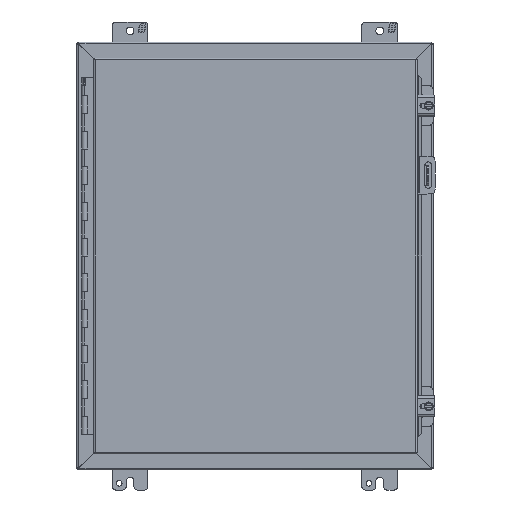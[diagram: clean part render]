
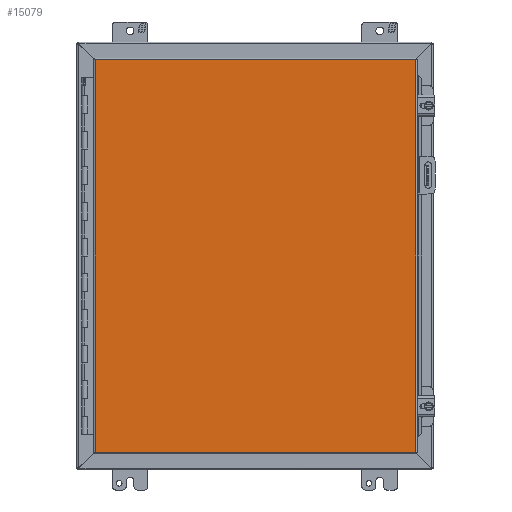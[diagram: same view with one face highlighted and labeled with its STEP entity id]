
A CAD part, front view. The second image highlights one B-rep face of the part: STEP entity #15079.
In plain terms, the highlighted planar face has unit normal (0, -1, 0).
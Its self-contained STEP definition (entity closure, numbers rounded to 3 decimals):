
#1340=LINE('',#22669,#2789);
#1341=LINE('',#22672,#2790);
#1342=LINE('',#22674,#2791);
#1343=LINE('',#22676,#2792);
#2789=VECTOR('',#18553,1000.);
#2790=VECTOR('',#18554,1000.);
#2791=VECTOR('',#18555,1000.);
#2792=VECTOR('',#18556,1000.);
#5670=ORIENTED_EDGE('',*,*,#9178,.T.);
#5671=ORIENTED_EDGE('',*,*,#9179,.T.);
#5672=ORIENTED_EDGE('',*,*,#9180,.T.);
#5673=ORIENTED_EDGE('',*,*,#9181,.T.);
#9178=EDGE_CURVE('',#11054,#11055,#1340,.T.);
#9179=EDGE_CURVE('',#11055,#11056,#1341,.T.);
#9180=EDGE_CURVE('',#11056,#11057,#1342,.T.);
#9181=EDGE_CURVE('',#11057,#11054,#1343,.T.);
#11054=VERTEX_POINT('',#22670);
#11055=VERTEX_POINT('',#22671);
#11056=VERTEX_POINT('',#22673);
#11057=VERTEX_POINT('',#22675);
#12638=EDGE_LOOP('',(#5670,#5671,#5672,#5673));
#13595=FACE_BOUND('',#12638,.T.);
#14417=PLANE('',#16244);
#15079=ADVANCED_FACE('',(#13595),#14417,.T.);
#16244=AXIS2_PLACEMENT_3D('',#22668,#18551,#18552);
#18551=DIRECTION('',(0.,-1.,0.));
#18552=DIRECTION('',(0.,0.,-1.));
#18553=DIRECTION('',(0.,0.,-1.));
#18554=DIRECTION('',(1.,0.,0.));
#18555=DIRECTION('',(0.,0.,1.));
#18556=DIRECTION('',(-1.,0.,0.));
#22668=CARTESIAN_POINT('',(-228.244,0.,-279.26));
#22669=CARTESIAN_POINT('',(-228.244,0.,279.26));
#22670=CARTESIAN_POINT('',(-228.244,0.,279.26));
#22671=CARTESIAN_POINT('',(-228.244,0.,-279.26));
#22672=CARTESIAN_POINT('',(-228.244,0.,-279.26));
#22673=CARTESIAN_POINT('',(228.244,0.,-279.26));
#22674=CARTESIAN_POINT('',(228.244,0.,-279.26));
#22675=CARTESIAN_POINT('',(228.244,0.,279.26));
#22676=CARTESIAN_POINT('',(228.244,0.,279.26));
